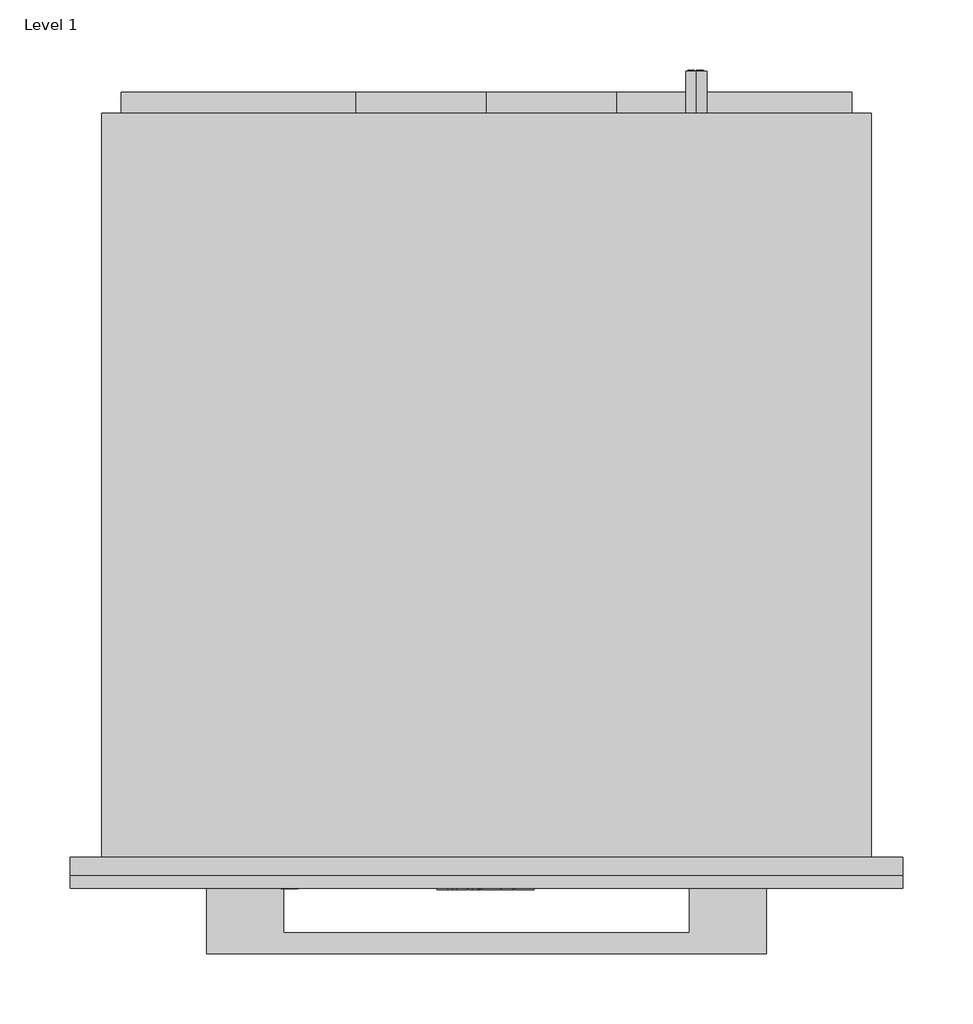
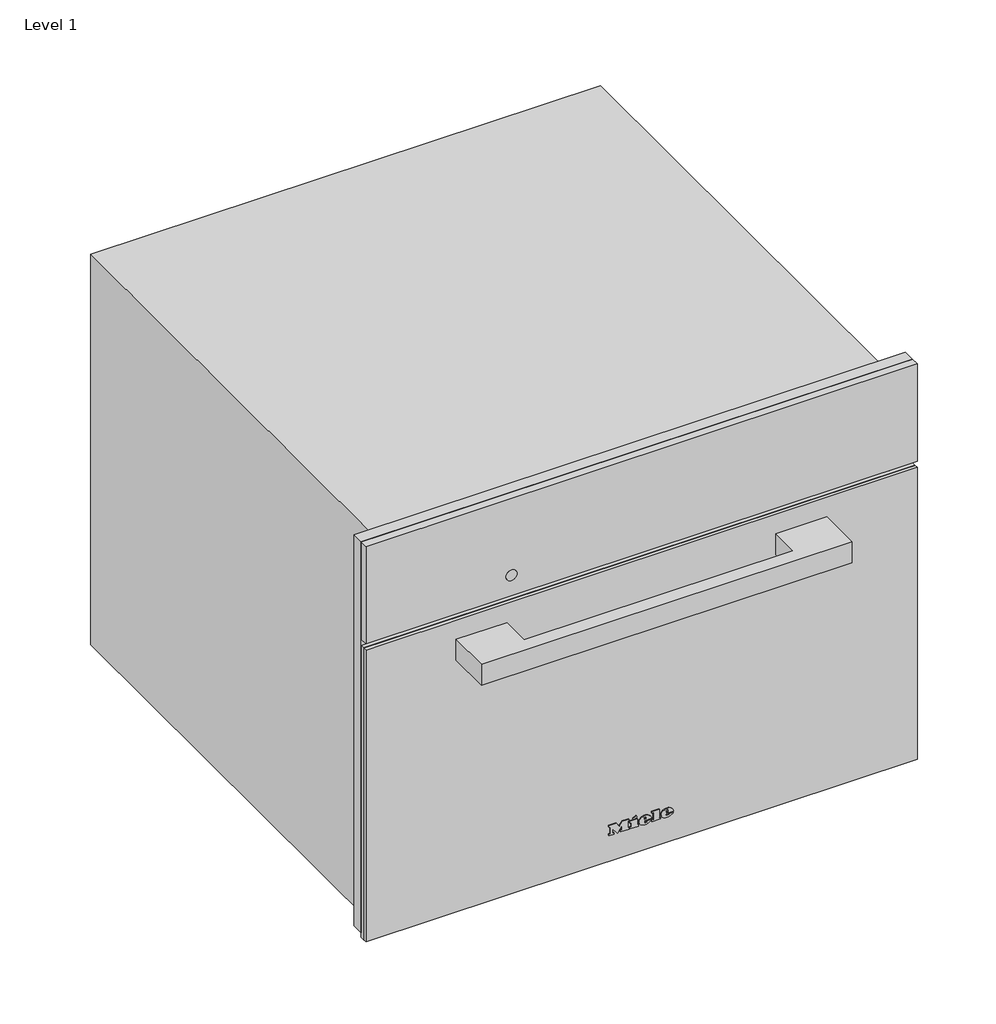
# One storey: 1 proxy.
"""IFC4 building model written with IfcOpenShell, lengths in millimetres."""

from ifc_helpers import new_model, si_unit, origin, place, context, project, spatial, transform, mapped, element, save
from components import specialty_equipment_739824af

model = new_model("IFC4")

# Units and contexts
model_context = context("Model", 3, world=origin())
ifc_project = project(units=[si_unit("LENGTHUNIT", "METRE", prefix="MILLI")], contexts=[model_context])

# Site, building, storey
site = spatial("IfcSite", under=ifc_project)
building = spatial("IfcBuilding", under=site)
storey = spatial("IfcBuildingStorey", under=building, Name="Level 1", Elevation=0.0)

# Proxy
placement = place(None, origin())
specialty_equipment_shape = specialty_equipment_739824af(model_context)
element("IfcBuildingElementProxy", 1, Name="11099560_F_DG2840_BRWS : 23284010_F_11099560_DG2840_BRWS", ObjectType="11099560_F_DG2840_BRWS : 23284010_F_11099560_DG2840_BRWS", at=placement, inside=storey, context=model_context, shape_type="MappedRepresentation", body=[
    mapped(specialty_equipment_shape, transform((0.0, 0.0, 0.0), x_axis=(1.0, 0.0, 0.0), y_axis=(0.0, 1.0, 0.0), z_axis=(0.0, 0.0, 1.0))),
])

save(model, "model.ifc")
